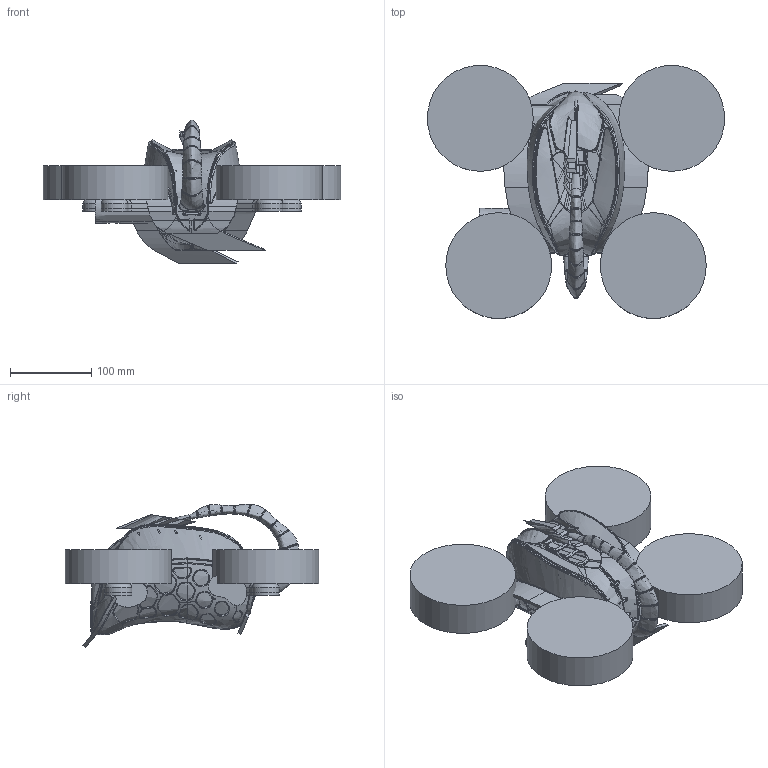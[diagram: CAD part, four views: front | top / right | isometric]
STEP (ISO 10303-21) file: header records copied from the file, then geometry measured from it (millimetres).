
FILE_DESCRIPTION(/* description */ (''),/* implementation_level */ '2;1');
FILE_NAME(/* name */ 'Carcasa_DRONETEAM_V120516.stp',/* time_stamp */ '2016-07-28T09:25:22+02:00',/* author */ (''),/* organization */ (''),/* preprocessor_version */ 'ST-DEVELOPER v16',/* originating_system */ 'SIEMENS PLM Software NX 10.0',/* authorisation */ '');
FILE_SCHEMA (('AUTOMOTIVE_DESIGN { 1 0 10303 214 3 1 1 1 }'));
Products named in the file (1): Carcasa_DRONETEAM_V120516
Bounding box: 364.95 x 310.76 x 176.44 mm (x, y, z)
Volume: 5996531.9 mm3; surface area: 1025895.7 mm2
Topology: 45 solids, 46 shells, 4000 faces, 10589 edges, 6484 vertices
Faces by surface type: bspline 2205, cylinder 579, torus 550, plane 516, sphere 84, extrusion 66
Full cylindrical faces by diameter (mm): 2 x58, 130 x8
Entity records: 449866 total; most frequent: CARTESIAN_POINT 372076, ORIENTED_EDGE 20568, EDGE_CURVE 10284, DIRECTION 9574, B_SPLINE_CURVE_WITH_KNOTS 6663, VERTEX_POINT 6385, EDGE_LOOP 4159, AXIS2_PLACEMENT_3D 4133
